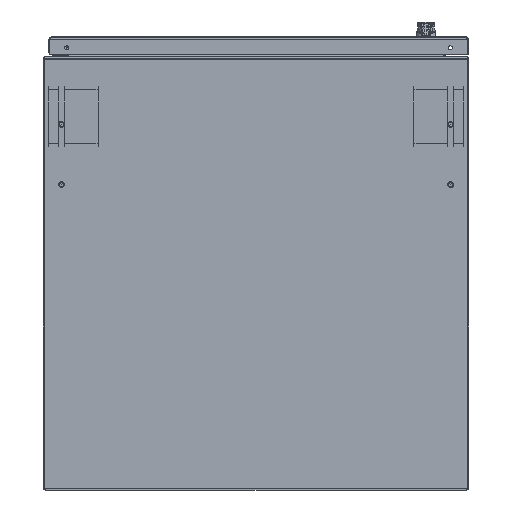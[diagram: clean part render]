
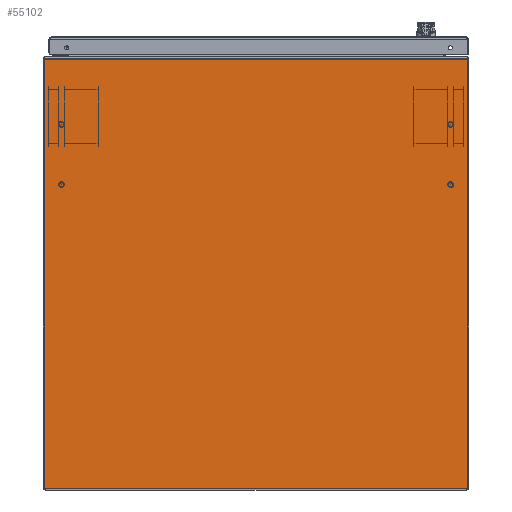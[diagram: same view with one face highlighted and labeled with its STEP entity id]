
A CAD part, front view. The second image highlights one B-rep face of the part: STEP entity #55102.
In plain terms, the highlighted planar face has unit normal (0, -1, 0).
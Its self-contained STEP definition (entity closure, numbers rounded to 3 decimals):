
#40671 = VERTEX_POINT ( 'NONE', #43748 ) ;
#40673 = VERTEX_POINT ( 'NONE', #43750 ) ;
#40682 = VERTEX_POINT ( 'NONE', #43760 ) ;
#40684 = VERTEX_POINT ( 'NONE', #43761 ) ;
#43748 = CARTESIAN_POINT ( 'NONE',  ( 298.171, 0., -303.171 ) ) ;
#43750 = CARTESIAN_POINT ( 'NONE',  ( -298.171, 0., -303.171 ) ) ;
#43760 = CARTESIAN_POINT ( 'NONE',  ( 298.171, 0., 300.885 ) ) ;
#43761 = CARTESIAN_POINT ( 'NONE',  ( -298.171, 0., 300.885 ) ) ;
#52806 = EDGE_CURVE ( 'NONE', #40682, #40671, #77245, .T. ) ;
#52814 = EDGE_CURVE ( 'NONE', #40671, #40673, #77248, .T. ) ;
#52821 = EDGE_CURVE ( 'NONE', #40673, #40684, #77256, .T. ) ;
#52837 = EDGE_CURVE ( 'NONE', #40682, #40684, #77272, .T. ) ;
#53263 = EDGE_LOOP ( 'NONE', ( #58256, #58258, #58260, #58262 ) ) ;
#55102 = ADVANCED_FACE ( 'NONE', ( #84826 ), #86408, .F. ) ;
#58256 = ORIENTED_EDGE ( 'NONE', *, *, #52837, .T. ) ;
#58258 = ORIENTED_EDGE ( 'NONE', *, *, #52821, .F. ) ;
#58260 = ORIENTED_EDGE ( 'NONE', *, *, #52814, .F. ) ;
#58262 = ORIENTED_EDGE ( 'NONE', *, *, #52806, .F. ) ;
#60676 = AXIS2_PLACEMENT_3D ( 'NONE', #86404, #86413, #86414 ) ;
#75370 = CARTESIAN_POINT ( 'NONE',  ( 298.171, 0., -303.171 ) ) ;
#75372 = DIRECTION ( 'NONE',  ( 0., 0., -1. ) ) ;
#75385 = CARTESIAN_POINT ( 'NONE',  ( -298.171, 0., -303.171 ) ) ;
#75395 = CARTESIAN_POINT ( 'NONE',  ( -298.171, 0., -303.171 ) ) ;
#75396 = DIRECTION ( 'NONE',  ( -1., 0., 0. ) ) ;
#75416 = DIRECTION ( 'NONE',  ( 0., 0., 1. ) ) ;
#75452 = CARTESIAN_POINT ( 'NONE',  ( 298.171, 0., 300.885 ) ) ;
#75454 = DIRECTION ( 'NONE',  ( -1., 0., 0. ) ) ;
#77245 = LINE ( 'NONE', #75370, #77246 ) ;
#77246 = VECTOR ( 'NONE', #75372, 1000. ) ;
#77248 = LINE ( 'NONE', #75385, #77252 ) ;
#77252 = VECTOR ( 'NONE', #75396, 1000. ) ;
#77256 = LINE ( 'NONE', #75395, #77258 ) ;
#77258 = VECTOR ( 'NONE', #75416, 1000. ) ;
#77272 = LINE ( 'NONE', #75452, #77273 ) ;
#77273 = VECTOR ( 'NONE', #75454, 1000. ) ;
#84826 = FACE_OUTER_BOUND ( 'NONE', #53263, .T. ) ;
#86404 = CARTESIAN_POINT ( 'NONE',  ( 298.171, 0., 305. ) ) ;
#86408 = PLANE ( 'NONE',  #60676 ) ;
#86413 = DIRECTION ( 'NONE',  ( 0., 1., 0. ) ) ;
#86414 = DIRECTION ( 'NONE',  ( 0., 0., 1. ) ) ;
